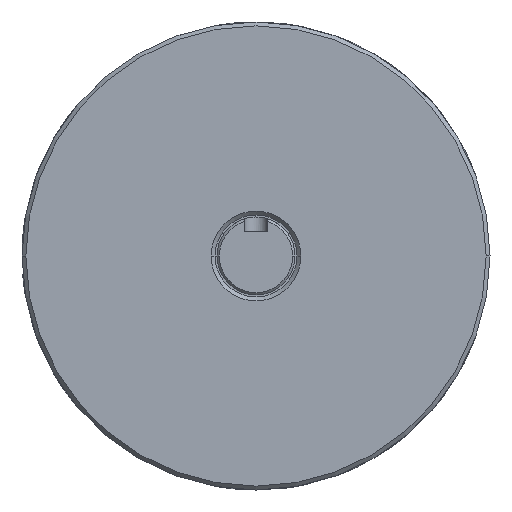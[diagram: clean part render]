
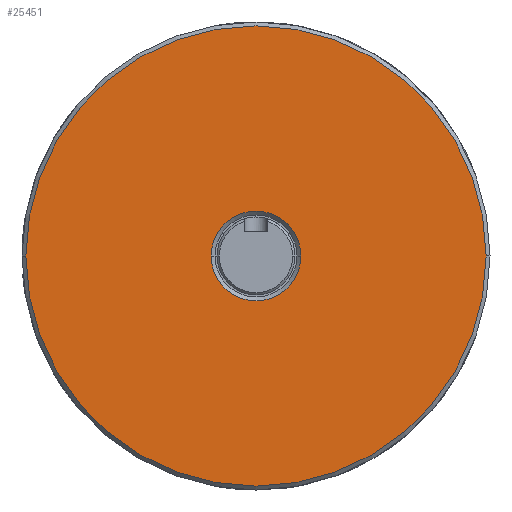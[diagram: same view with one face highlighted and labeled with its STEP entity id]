
A CAD part, left-side view. The second image highlights one B-rep face of the part: STEP entity #25451.
In plain terms, the highlighted planar face has unit normal (-1, 0, 0).
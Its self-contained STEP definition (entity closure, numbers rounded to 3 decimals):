
#12234 = DIRECTION ( 'NONE',  ( 0., -1., 0. ) ) ;
#12235 = DIRECTION ( 'NONE',  ( -1., 0., 0. ) ) ;
#12236 = CARTESIAN_POINT ( 'NONE',  ( 25., 0., 0. ) ) ;
#12237 = AXIS2_PLACEMENT_3D ( 'NONE', #12236, #12235, #12234 ) ;
#12238 = CIRCLE ( 'NONE', #12237, 29.5 ) ;
#12239 = DIRECTION ( 'NONE',  ( 0., -1., 0. ) ) ;
#12240 = DIRECTION ( 'NONE',  ( 1., 0., 0. ) ) ;
#12241 = AXIS2_PLACEMENT_3D ( 'NONE', #12247, #12240, #12239 ) ;
#12242 = CIRCLE ( 'NONE', #12241, 5.75 ) ;
#12243 = DIRECTION ( 'NONE',  ( 0., -1., 0. ) ) ;
#12244 = DIRECTION ( 'NONE',  ( -1., 0., 0. ) ) ;
#12245 = CARTESIAN_POINT ( 'NONE',  ( 25., 5., 0. ) ) ;
#12246 = AXIS2_PLACEMENT_3D ( 'NONE', #12245, #12244, #12243 ) ;
#12247 = CARTESIAN_POINT ( 'NONE',  ( 25., 0., 0. ) ) ;
#12248 = PLANE ( 'NONE',  #12246 ) ;
#12249 = FACE_OUTER_BOUND ( 'NONE', #25456, .T. ) ;
#12255 = FACE_BOUND ( 'NONE', #25452, .T. ) ;
#14474 = EDGE_CURVE ( 'NONE', #14476, #14475, #33508, .T. ) ;
#14475 = VERTEX_POINT ( 'NONE', #33503 ) ;
#14476 = VERTEX_POINT ( 'NONE', #33502 ) ;
#19280 = VERTEX_POINT ( 'NONE', #38077 ) ;
#19455 = EDGE_CURVE ( 'NONE', #19458, #19280, #38413, .T. ) ;
#19458 = VERTEX_POINT ( 'NONE', #38408 ) ;
#25451 = ADVANCED_FACE ( 'NONE', ( #12255, #12249 ), #12248, .T. ) ;
#25452 = EDGE_LOOP ( 'NONE', ( #25453, #25454 ) ) ;
#25453 = ORIENTED_EDGE ( 'NONE', *, *, #19455, .T. ) ;
#25454 = ORIENTED_EDGE ( 'NONE', *, *, #25455, .T. ) ;
#25455 = EDGE_CURVE ( 'NONE', #19280, #19458, #12242, .T. ) ;
#25456 = EDGE_LOOP ( 'NONE', ( #25457, #25459 ) ) ;
#25457 = ORIENTED_EDGE ( 'NONE', *, *, #25458, .T. ) ;
#25458 = EDGE_CURVE ( 'NONE', #14475, #14476, #12238, .T. ) ;
#25459 = ORIENTED_EDGE ( 'NONE', *, *, #14474, .T. ) ;
#33502 = CARTESIAN_POINT ( 'NONE',  ( 25., -29.5, 0. ) ) ;
#33503 = CARTESIAN_POINT ( 'NONE',  ( 25., 29.5, 0. ) ) ;
#33504 = DIRECTION ( 'NONE',  ( 0., -1., 0. ) ) ;
#33505 = DIRECTION ( 'NONE',  ( -1., 0., 0. ) ) ;
#33506 = CARTESIAN_POINT ( 'NONE',  ( 25., 0., 0. ) ) ;
#33507 = AXIS2_PLACEMENT_3D ( 'NONE', #33506, #33505, #33504 ) ;
#33508 = CIRCLE ( 'NONE', #33507, 29.5 ) ;
#38077 = CARTESIAN_POINT ( 'NONE',  ( 25., 5.75, 0. ) ) ;
#38408 = CARTESIAN_POINT ( 'NONE',  ( 25., -5.75, 0. ) ) ;
#38409 = DIRECTION ( 'NONE',  ( 0., -1., 0. ) ) ;
#38410 = DIRECTION ( 'NONE',  ( 1., 0., 0. ) ) ;
#38411 = CARTESIAN_POINT ( 'NONE',  ( 25., 0., 0. ) ) ;
#38412 = AXIS2_PLACEMENT_3D ( 'NONE', #38411, #38410, #38409 ) ;
#38413 = CIRCLE ( 'NONE', #38412, 5.75 ) ;
